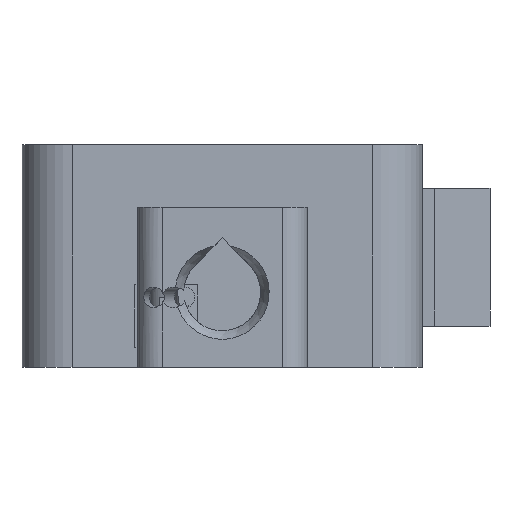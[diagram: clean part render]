
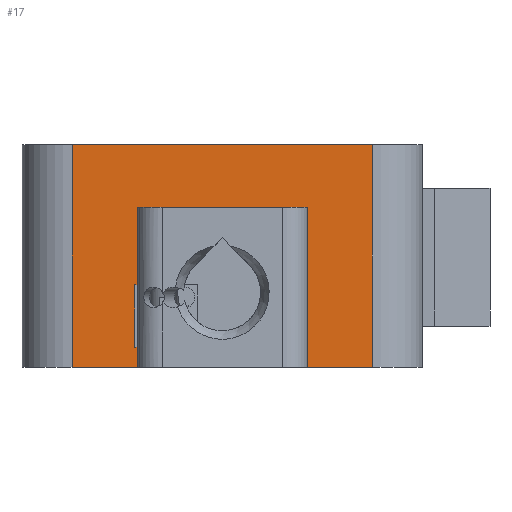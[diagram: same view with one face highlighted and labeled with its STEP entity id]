
A CAD part, left-side view. The second image highlights one B-rep face of the part: STEP entity #17.
In plain terms, the highlighted planar face has unit normal (-1, 0, 0).
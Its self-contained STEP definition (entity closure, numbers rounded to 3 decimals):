
#17 = ADVANCED_FACE('',(#18),#32,.F.);
#18 = FACE_BOUND('',#19,.F.);
#19 = EDGE_LOOP('',(#20,#55,#83,#111,#138,#165,#192,#215));
#20 = ORIENTED_EDGE('',*,*,#21,.F.);
#21 = EDGE_CURVE('',#22,#24,#26,.T.);
#22 = VERTEX_POINT('',#23);
#23 = CARTESIAN_POINT('',(536.,-12.,17.));
#24 = VERTEX_POINT('',#25);
#25 = CARTESIAN_POINT('',(536.,12.,17.));
#26 = SURFACE_CURVE('',#27,(#31,#43),.PCURVE_S1.);
#27 = LINE('',#28,#29);
#28 = CARTESIAN_POINT('',(536.,-16.,17.));
#29 = VECTOR('',#30,1.);
#30 = DIRECTION('',(0.,1.,0.));
#31 = PCURVE('',#32,#37);
#32 = PLANE('',#33);
#33 = AXIS2_PLACEMENT_3D('',#34,#35,#36);
#34 = CARTESIAN_POINT('',(536.,-16.,-0.8));
#35 = DIRECTION('',(1.,0.,0.));
#36 = DIRECTION('',(0.,0.,1.));
#37 = DEFINITIONAL_REPRESENTATION('',(#38),#42);
#38 = LINE('',#39,#40);
#39 = CARTESIAN_POINT('',(17.8,0.));
#40 = VECTOR('',#41,1.);
#41 = DIRECTION('',(0.,-1.));
#42 = ( GEOMETRIC_REPRESENTATION_CONTEXT(2) 
PARAMETRIC_REPRESENTATION_CONTEXT() REPRESENTATION_CONTEXT('2D SPACE',''
  ) );
#43 = PCURVE('',#44,#49);
#44 = PLANE('',#45);
#45 = AXIS2_PLACEMENT_3D('',#46,#47,#48);
#46 = CARTESIAN_POINT('',(536.,-16.,17.));
#47 = DIRECTION('',(0.,0.,1.));
#48 = DIRECTION('',(1.,0.,0.));
#49 = DEFINITIONAL_REPRESENTATION('',(#50),#54);
#50 = LINE('',#51,#52);
#51 = CARTESIAN_POINT('',(0.,0.));
#52 = VECTOR('',#53,1.);
#53 = DIRECTION('',(0.,1.));
#54 = ( GEOMETRIC_REPRESENTATION_CONTEXT(2) 
PARAMETRIC_REPRESENTATION_CONTEXT() REPRESENTATION_CONTEXT('2D SPACE',''
  ) );
#55 = ORIENTED_EDGE('',*,*,#56,.F.);
#56 = EDGE_CURVE('',#57,#22,#59,.T.);
#57 = VERTEX_POINT('',#58);
#58 = CARTESIAN_POINT('',(536.,-12.,-0.8));
#59 = SURFACE_CURVE('',#60,(#64,#71),.PCURVE_S1.);
#60 = LINE('',#61,#62);
#61 = CARTESIAN_POINT('',(536.,-12.,-0.8));
#62 = VECTOR('',#63,1.);
#63 = DIRECTION('',(0.,0.,1.));
#64 = PCURVE('',#32,#65);
#65 = DEFINITIONAL_REPRESENTATION('',(#66),#70);
#66 = LINE('',#67,#68);
#67 = CARTESIAN_POINT('',(0.,-4.));
#68 = VECTOR('',#69,1.);
#69 = DIRECTION('',(1.,0.));
#70 = ( GEOMETRIC_REPRESENTATION_CONTEXT(2) 
PARAMETRIC_REPRESENTATION_CONTEXT() REPRESENTATION_CONTEXT('2D SPACE',''
  ) );
#71 = PCURVE('',#72,#77);
#72 = CYLINDRICAL_SURFACE('',#73,4.);
#73 = AXIS2_PLACEMENT_3D('',#74,#75,#76);
#74 = CARTESIAN_POINT('',(540.,-12.,-0.8));
#75 = DIRECTION('',(0.,0.,1.));
#76 = DIRECTION('',(-1.,-0.,0.));
#77 = DEFINITIONAL_REPRESENTATION('',(#78),#82);
#78 = LINE('',#79,#80);
#79 = CARTESIAN_POINT('',(0.,0.));
#80 = VECTOR('',#81,1.);
#81 = DIRECTION('',(0.,1.));
#82 = ( GEOMETRIC_REPRESENTATION_CONTEXT(2) 
PARAMETRIC_REPRESENTATION_CONTEXT() REPRESENTATION_CONTEXT('2D SPACE',''
  ) );
#83 = ORIENTED_EDGE('',*,*,#84,.T.);
#84 = EDGE_CURVE('',#57,#85,#87,.T.);
#85 = VERTEX_POINT('',#86);
#86 = CARTESIAN_POINT('',(536.,-6.8,-0.8));
#87 = SURFACE_CURVE('',#88,(#92,#99),.PCURVE_S1.);
#88 = LINE('',#89,#90);
#89 = CARTESIAN_POINT('',(536.,-16.,-0.8));
#90 = VECTOR('',#91,1.);
#91 = DIRECTION('',(0.,1.,0.));
#92 = PCURVE('',#32,#93);
#93 = DEFINITIONAL_REPRESENTATION('',(#94),#98);
#94 = LINE('',#95,#96);
#95 = CARTESIAN_POINT('',(0.,0.));
#96 = VECTOR('',#97,1.);
#97 = DIRECTION('',(0.,-1.));
#98 = ( GEOMETRIC_REPRESENTATION_CONTEXT(2) 
PARAMETRIC_REPRESENTATION_CONTEXT() REPRESENTATION_CONTEXT('2D SPACE',''
  ) );
#99 = PCURVE('',#100,#105);
#100 = PLANE('',#101);
#101 = AXIS2_PLACEMENT_3D('',#102,#103,#104);
#102 = CARTESIAN_POINT('',(536.,-16.,-0.8));
#103 = DIRECTION('',(0.,0.,1.));
#104 = DIRECTION('',(1.,0.,-0.));
#105 = DEFINITIONAL_REPRESENTATION('',(#106),#110);
#106 = LINE('',#107,#108);
#107 = CARTESIAN_POINT('',(0.,0.));
#108 = VECTOR('',#109,1.);
#109 = DIRECTION('',(0.,1.));
#110 = ( GEOMETRIC_REPRESENTATION_CONTEXT(2) 
PARAMETRIC_REPRESENTATION_CONTEXT() REPRESENTATION_CONTEXT('2D SPACE',''
  ) );
#111 = ORIENTED_EDGE('',*,*,#112,.T.);
#112 = EDGE_CURVE('',#85,#113,#115,.T.);
#113 = VERTEX_POINT('',#114);
#114 = CARTESIAN_POINT('',(536.,-6.8,12.));
#115 = SURFACE_CURVE('',#116,(#120,#127),.PCURVE_S1.);
#116 = LINE('',#117,#118);
#117 = CARTESIAN_POINT('',(536.,-6.8,-0.8));
#118 = VECTOR('',#119,1.);
#119 = DIRECTION('',(0.,0.,1.));
#120 = PCURVE('',#32,#121);
#121 = DEFINITIONAL_REPRESENTATION('',(#122),#126);
#122 = LINE('',#123,#124);
#123 = CARTESIAN_POINT('',(0.,-9.2));
#124 = VECTOR('',#125,1.);
#125 = DIRECTION('',(1.,0.));
#126 = ( GEOMETRIC_REPRESENTATION_CONTEXT(2) 
PARAMETRIC_REPRESENTATION_CONTEXT() REPRESENTATION_CONTEXT('2D SPACE',''
  ) );
#127 = PCURVE('',#128,#133);
#128 = PLANE('',#129);
#129 = AXIS2_PLACEMENT_3D('',#130,#131,#132);
#130 = CARTESIAN_POINT('',(480.,-6.8,-0.8));
#131 = DIRECTION('',(0.,1.,0.));
#132 = DIRECTION('',(0.,0.,1.));
#133 = DEFINITIONAL_REPRESENTATION('',(#134),#137);
#134 = B_SPLINE_CURVE_WITH_KNOTS('',1,(#135,#136),.UNSPECIFIED.,.F.,.F.,
  (2,2),(0.,12.8),.PIECEWISE_BEZIER_KNOTS.);
#135 = CARTESIAN_POINT('',(0.,56.));
#136 = CARTESIAN_POINT('',(12.8,56.));
#137 = ( GEOMETRIC_REPRESENTATION_CONTEXT(2) 
PARAMETRIC_REPRESENTATION_CONTEXT() REPRESENTATION_CONTEXT('2D SPACE',''
  ) );
#138 = ORIENTED_EDGE('',*,*,#139,.F.);
#139 = EDGE_CURVE('',#140,#113,#142,.T.);
#140 = VERTEX_POINT('',#141);
#141 = CARTESIAN_POINT('',(536.,6.8,12.));
#142 = SURFACE_CURVE('',#143,(#147,#154),.PCURVE_S1.);
#143 = LINE('',#144,#145);
#144 = CARTESIAN_POINT('',(536.,-11.4,12.));
#145 = VECTOR('',#146,1.);
#146 = DIRECTION('',(0.,-1.,0.));
#147 = PCURVE('',#32,#148);
#148 = DEFINITIONAL_REPRESENTATION('',(#149),#153);
#149 = LINE('',#150,#151);
#150 = CARTESIAN_POINT('',(12.8,-4.6));
#151 = VECTOR('',#152,1.);
#152 = DIRECTION('',(0.,1.));
#153 = ( GEOMETRIC_REPRESENTATION_CONTEXT(2) 
PARAMETRIC_REPRESENTATION_CONTEXT() REPRESENTATION_CONTEXT('2D SPACE',''
  ) );
#154 = PCURVE('',#155,#160);
#155 = PLANE('',#156);
#156 = AXIS2_PLACEMENT_3D('',#157,#158,#159);
#157 = CARTESIAN_POINT('',(480.,-6.8,12.));
#158 = DIRECTION('',(0.,0.,1.));
#159 = DIRECTION('',(1.,0.,0.));
#160 = DEFINITIONAL_REPRESENTATION('',(#161),#164);
#161 = B_SPLINE_CURVE_WITH_KNOTS('',1,(#162,#163),.UNSPECIFIED.,.F.,.F.,
  (2,2),(-18.2,-4.6),.PIECEWISE_BEZIER_KNOTS.);
#162 = CARTESIAN_POINT('',(56.,13.6));
#163 = CARTESIAN_POINT('',(56.,0.));
#164 = ( GEOMETRIC_REPRESENTATION_CONTEXT(2) 
PARAMETRIC_REPRESENTATION_CONTEXT() REPRESENTATION_CONTEXT('2D SPACE',''
  ) );
#165 = ORIENTED_EDGE('',*,*,#166,.F.);
#166 = EDGE_CURVE('',#167,#140,#169,.T.);
#167 = VERTEX_POINT('',#168);
#168 = CARTESIAN_POINT('',(536.,6.8,-0.8));
#169 = SURFACE_CURVE('',#170,(#174,#181),.PCURVE_S1.);
#170 = LINE('',#171,#172);
#171 = CARTESIAN_POINT('',(536.,6.8,-0.8));
#172 = VECTOR('',#173,1.);
#173 = DIRECTION('',(0.,0.,1.));
#174 = PCURVE('',#32,#175);
#175 = DEFINITIONAL_REPRESENTATION('',(#176),#180);
#176 = LINE('',#177,#178);
#177 = CARTESIAN_POINT('',(0.,-22.8));
#178 = VECTOR('',#179,1.);
#179 = DIRECTION('',(1.,0.));
#180 = ( GEOMETRIC_REPRESENTATION_CONTEXT(2) 
PARAMETRIC_REPRESENTATION_CONTEXT() REPRESENTATION_CONTEXT('2D SPACE',''
  ) );
#181 = PCURVE('',#182,#187);
#182 = PLANE('',#183);
#183 = AXIS2_PLACEMENT_3D('',#184,#185,#186);
#184 = CARTESIAN_POINT('',(480.,6.8,-0.8));
#185 = DIRECTION('',(0.,1.,0.));
#186 = DIRECTION('',(0.,0.,1.));
#187 = DEFINITIONAL_REPRESENTATION('',(#188),#191);
#188 = B_SPLINE_CURVE_WITH_KNOTS('',1,(#189,#190),.UNSPECIFIED.,.F.,.F.,
  (2,2),(0.,12.8),.PIECEWISE_BEZIER_KNOTS.);
#189 = CARTESIAN_POINT('',(0.,56.));
#190 = CARTESIAN_POINT('',(12.8,56.));
#191 = ( GEOMETRIC_REPRESENTATION_CONTEXT(2) 
PARAMETRIC_REPRESENTATION_CONTEXT() REPRESENTATION_CONTEXT('2D SPACE',''
  ) );
#192 = ORIENTED_EDGE('',*,*,#193,.T.);
#193 = EDGE_CURVE('',#167,#194,#196,.T.);
#194 = VERTEX_POINT('',#195);
#195 = CARTESIAN_POINT('',(536.,12.,-0.8));
#196 = SURFACE_CURVE('',#197,(#201,#208),.PCURVE_S1.);
#197 = LINE('',#198,#199);
#198 = CARTESIAN_POINT('',(536.,-16.,-0.8));
#199 = VECTOR('',#200,1.);
#200 = DIRECTION('',(0.,1.,0.));
#201 = PCURVE('',#32,#202);
#202 = DEFINITIONAL_REPRESENTATION('',(#203),#207);
#203 = LINE('',#204,#205);
#204 = CARTESIAN_POINT('',(0.,0.));
#205 = VECTOR('',#206,1.);
#206 = DIRECTION('',(0.,-1.));
#207 = ( GEOMETRIC_REPRESENTATION_CONTEXT(2) 
PARAMETRIC_REPRESENTATION_CONTEXT() REPRESENTATION_CONTEXT('2D SPACE',''
  ) );
#208 = PCURVE('',#100,#209);
#209 = DEFINITIONAL_REPRESENTATION('',(#210),#214);
#210 = LINE('',#211,#212);
#211 = CARTESIAN_POINT('',(0.,0.));
#212 = VECTOR('',#213,1.);
#213 = DIRECTION('',(0.,1.));
#214 = ( GEOMETRIC_REPRESENTATION_CONTEXT(2) 
PARAMETRIC_REPRESENTATION_CONTEXT() REPRESENTATION_CONTEXT('2D SPACE',''
  ) );
#215 = ORIENTED_EDGE('',*,*,#216,.F.);
#216 = EDGE_CURVE('',#24,#194,#217,.T.);
#217 = SURFACE_CURVE('',#218,(#222,#229),.PCURVE_S1.);
#218 = LINE('',#219,#220);
#219 = CARTESIAN_POINT('',(536.,12.,17.));
#220 = VECTOR('',#221,1.);
#221 = DIRECTION('',(0.,0.,-1.));
#222 = PCURVE('',#32,#223);
#223 = DEFINITIONAL_REPRESENTATION('',(#224),#228);
#224 = LINE('',#225,#226);
#225 = CARTESIAN_POINT('',(17.8,-28.));
#226 = VECTOR('',#227,1.);
#227 = DIRECTION('',(-1.,0.));
#228 = ( GEOMETRIC_REPRESENTATION_CONTEXT(2) 
PARAMETRIC_REPRESENTATION_CONTEXT() REPRESENTATION_CONTEXT('2D SPACE',''
  ) );
#229 = PCURVE('',#230,#235);
#230 = CYLINDRICAL_SURFACE('',#231,4.);
#231 = AXIS2_PLACEMENT_3D('',#232,#233,#234);
#232 = CARTESIAN_POINT('',(540.,12.,-0.8));
#233 = DIRECTION('',(0.,0.,1.));
#234 = DIRECTION('',(-1.,-0.,0.));
#235 = DEFINITIONAL_REPRESENTATION('',(#236),#240);
#236 = LINE('',#237,#238);
#237 = CARTESIAN_POINT('',(-0.,17.8));
#238 = VECTOR('',#239,1.);
#239 = DIRECTION('',(-0.,-1.));
#240 = ( GEOMETRIC_REPRESENTATION_CONTEXT(2) 
PARAMETRIC_REPRESENTATION_CONTEXT() REPRESENTATION_CONTEXT('2D SPACE',''
  ) );
